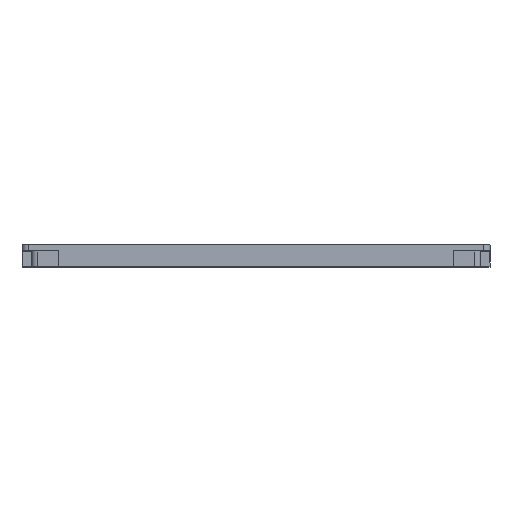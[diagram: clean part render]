
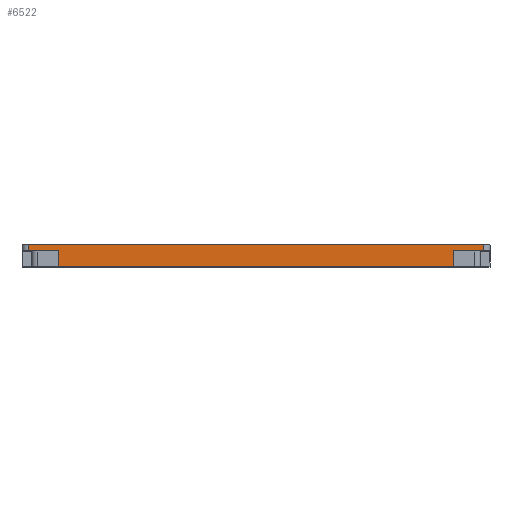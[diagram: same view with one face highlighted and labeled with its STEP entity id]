
A CAD part, top view. The second image highlights one B-rep face of the part: STEP entity #6522.
In plain terms, the highlighted planar face has unit normal (0, 0, 1).
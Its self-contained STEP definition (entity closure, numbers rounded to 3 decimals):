
#53 = CARTESIAN_POINT ( 'NONE',  ( 37., -22.1, 38. ) ) ;
#128 = EDGE_CURVE ( 'NONE', #6160, #711, #1877, .T. ) ;
#149 = VECTOR ( 'NONE', #3404, 1000. ) ;
#260 = DIRECTION ( 'NONE',  ( 1., 0., 0. ) ) ;
#288 = LINE ( 'NONE', #5168, #149 ) ;
#409 = ORIENTED_EDGE ( 'NONE', *, *, #128, .T. ) ;
#442 = CARTESIAN_POINT ( 'NONE',  ( -32., -6.2, 38. ) ) ;
#593 = DIRECTION ( 'NONE',  ( 1., 0., 0. ) ) ;
#640 = CARTESIAN_POINT ( 'NONE',  ( 32., -6.2, 38. ) ) ;
#643 = VERTEX_POINT ( 'NONE', #53 ) ;
#711 = VERTEX_POINT ( 'NONE', #3368 ) ;
#870 = ORIENTED_EDGE ( 'NONE', *, *, #7005, .T. ) ;
#911 = EDGE_CURVE ( 'NONE', #3012, #711, #5919, .T. ) ;
#943 = LINE ( 'NONE', #1505, #7885 ) ;
#1071 = EDGE_CURVE ( 'NONE', #1149, #3012, #3963, .T. ) ;
#1149 = VERTEX_POINT ( 'NONE', #7479 ) ;
#1249 = LINE ( 'NONE', #640, #5264 ) ;
#1272 = VERTEX_POINT ( 'NONE', #6434 ) ;
#1366 = VECTOR ( 'NONE', #593, 1000. ) ;
#1426 = DIRECTION ( 'NONE',  ( 0., 0., 1. ) ) ;
#1461 = CARTESIAN_POINT ( 'NONE',  ( 0., -6.2, 38. ) ) ;
#1505 = CARTESIAN_POINT ( 'NONE',  ( -32., -21.1, 38. ) ) ;
#1586 = ORIENTED_EDGE ( 'NONE', *, *, #911, .F. ) ;
#1845 = VECTOR ( 'NONE', #2003, 1000. ) ;
#1877 = LINE ( 'NONE', #7314, #1366 ) ;
#2003 = DIRECTION ( 'NONE',  ( -1., 0., 0. ) ) ;
#2012 = CARTESIAN_POINT ( 'NONE',  ( -37., -21.1, 38. ) ) ;
#2028 = EDGE_LOOP ( 'NONE', ( #870, #3439, #7273, #5710, #3832, #409, #1586, #2827 ) ) ;
#2827 = ORIENTED_EDGE ( 'NONE', *, *, #1071, .F. ) ;
#2883 = DIRECTION ( 'NONE',  ( 0., 1., 0. ) ) ;
#2901 = VECTOR ( 'NONE', #3202, 1000. ) ;
#2904 = VERTEX_POINT ( 'NONE', #4150 ) ;
#3001 = VECTOR ( 'NONE', #6419, 1000. ) ;
#3012 = VERTEX_POINT ( 'NONE', #3749 ) ;
#3202 = DIRECTION ( 'NONE',  ( -1., 0., 0. ) ) ;
#3247 = EDGE_CURVE ( 'NONE', #6160, #3858, #3990, .T. ) ;
#3368 = CARTESIAN_POINT ( 'NONE',  ( -32., -22.1, 38. ) ) ;
#3404 = DIRECTION ( 'NONE',  ( 0., 1., 0. ) ) ;
#3439 = ORIENTED_EDGE ( 'NONE', *, *, #4043, .F. ) ;
#3458 = CARTESIAN_POINT ( 'NONE',  ( -37., -22.1, 38. ) ) ;
#3749 = CARTESIAN_POINT ( 'NONE',  ( -32., -24.6, 38. ) ) ;
#3832 = ORIENTED_EDGE ( 'NONE', *, *, #3247, .F. ) ;
#3858 = VERTEX_POINT ( 'NONE', #2012 ) ;
#3924 = CARTESIAN_POINT ( 'NONE',  ( 0., -24.6, 38. ) ) ;
#3963 = LINE ( 'NONE', #3924, #2901 ) ;
#3990 = LINE ( 'NONE', #3458, #3001 ) ;
#4043 = EDGE_CURVE ( 'NONE', #643, #1272, #5042, .T. ) ;
#4150 = CARTESIAN_POINT ( 'NONE',  ( 37., -21.1, 38. ) ) ;
#4486 = AXIS2_PLACEMENT_3D ( 'NONE', #1461, #1426, #6936 ) ;
#4919 = PLANE ( 'NONE',  #4486 ) ;
#4977 = EDGE_CURVE ( 'NONE', #3858, #2904, #943, .T. ) ;
#5042 = LINE ( 'NONE', #7435, #1845 ) ;
#5168 = CARTESIAN_POINT ( 'NONE',  ( 37., -22.1, 38. ) ) ;
#5264 = VECTOR ( 'NONE', #7628, 1000. ) ;
#5710 = ORIENTED_EDGE ( 'NONE', *, *, #4977, .F. ) ;
#5919 = LINE ( 'NONE', #442, #6087 ) ;
#6087 = VECTOR ( 'NONE', #2883, 1000. ) ;
#6160 = VERTEX_POINT ( 'NONE', #7415 ) ;
#6419 = DIRECTION ( 'NONE',  ( 0., 1., 0. ) ) ;
#6434 = CARTESIAN_POINT ( 'NONE',  ( 32., -22.1, 38. ) ) ;
#6522 = ADVANCED_FACE ( 'NONE', ( #7408 ), #4919, .T. ) ;
#6633 = EDGE_CURVE ( 'NONE', #643, #2904, #288, .T. ) ;
#6936 = DIRECTION ( 'NONE',  ( 1., 0., 0. ) ) ;
#7005 = EDGE_CURVE ( 'NONE', #1149, #1272, #1249, .T. ) ;
#7273 = ORIENTED_EDGE ( 'NONE', *, *, #6633, .T. ) ;
#7314 = CARTESIAN_POINT ( 'NONE',  ( 0., -22.1, 38. ) ) ;
#7408 = FACE_OUTER_BOUND ( 'NONE', #2028, .T. ) ;
#7415 = CARTESIAN_POINT ( 'NONE',  ( -37., -22.1, 38. ) ) ;
#7435 = CARTESIAN_POINT ( 'NONE',  ( 0., -22.1, 38. ) ) ;
#7479 = CARTESIAN_POINT ( 'NONE',  ( 32., -24.6, 38. ) ) ;
#7628 = DIRECTION ( 'NONE',  ( 0., 1., 0. ) ) ;
#7885 = VECTOR ( 'NONE', #260, 1000. ) ;
